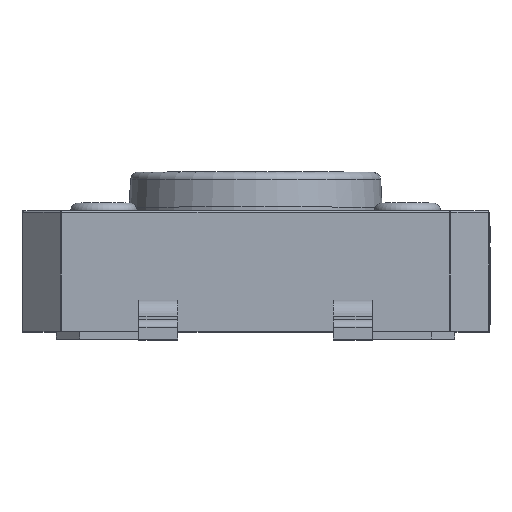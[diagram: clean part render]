
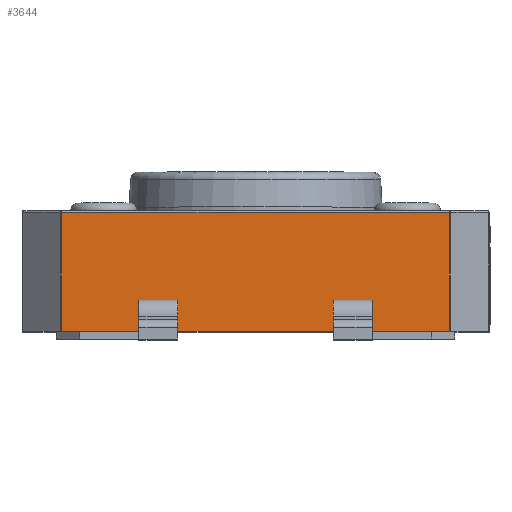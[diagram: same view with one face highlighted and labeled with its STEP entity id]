
A CAD part, top view. The second image highlights one B-rep face of the part: STEP entity #3644.
In plain terms, the highlighted planar face has unit normal (0, 0, 1).
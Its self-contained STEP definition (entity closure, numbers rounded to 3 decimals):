
#403=DIRECTION('',(-1.,0.,0.));
#404=VECTOR('',#403,9.959);
#405=CARTESIAN_POINT('',(4.979,0.2,6.));
#406=LINE('',#405,#404);
#407=DIRECTION('',(0.,-1.,0.));
#408=VECTOR('',#407,3.05);
#409=CARTESIAN_POINT('',(4.979,3.25,6.));
#410=LINE('',#409,#408);
#411=DIRECTION('',(0.,-1.,0.));
#412=VECTOR('',#411,3.05);
#413=CARTESIAN_POINT('',(-4.979,3.25,6.));
#414=LINE('',#413,#412);
#517=DIRECTION('',(-1.,0.,0.));
#518=VECTOR('',#517,9.959);
#519=CARTESIAN_POINT('',(4.979,3.25,6.));
#520=LINE('',#519,#518);
#1213=DIRECTION('',(0.,1.,0.));
#1214=VECTOR('',#1213,0.3);
#1215=CARTESIAN_POINT('',(2.,0.7,6.));
#1216=LINE('',#1215,#1214);
#1221=DIRECTION('',(1.,0.,0.));
#1222=VECTOR('',#1221,1.);
#1223=CARTESIAN_POINT('',(2.,1.,6.));
#1224=LINE('',#1223,#1222);
#1229=DIRECTION('',(0.,-1.,0.));
#1230=VECTOR('',#1229,0.3);
#1231=CARTESIAN_POINT('',(3.,1.,6.));
#1232=LINE('',#1231,#1230);
#1261=DIRECTION('',(-1.,0.,0.));
#1262=VECTOR('',#1261,1.);
#1263=CARTESIAN_POINT('',(3.,0.7,6.));
#1264=LINE('',#1263,#1262);
#1365=DIRECTION('',(0.,1.,0.));
#1366=VECTOR('',#1365,0.3);
#1367=CARTESIAN_POINT('',(-3.,0.7,6.));
#1368=LINE('',#1367,#1366);
#1373=DIRECTION('',(1.,0.,0.));
#1374=VECTOR('',#1373,1.);
#1375=CARTESIAN_POINT('',(-3.,1.,6.));
#1376=LINE('',#1375,#1374);
#1381=DIRECTION('',(0.,-1.,0.));
#1382=VECTOR('',#1381,0.3);
#1383=CARTESIAN_POINT('',(-2.,1.,6.));
#1384=LINE('',#1383,#1382);
#1413=DIRECTION('',(-1.,0.,0.));
#1414=VECTOR('',#1413,1.);
#1415=CARTESIAN_POINT('',(-2.,0.7,6.));
#1416=LINE('',#1415,#1414);
#2451=CARTESIAN_POINT('',(-4.979,0.2,6.));
#2452=VERTEX_POINT('',#2451);
#2453=CARTESIAN_POINT('',(4.979,0.2,6.));
#2455=VERTEX_POINT('',#2453);
#2525=CARTESIAN_POINT('',(4.979,3.25,6.));
#2526=VERTEX_POINT('',#2525);
#2529=CARTESIAN_POINT('',(2.,0.7,6.));
#2530=CARTESIAN_POINT('',(2.,1.,6.));
#2531=VERTEX_POINT('',#2529);
#2532=VERTEX_POINT('',#2530);
#2533=CARTESIAN_POINT('',(3.,1.,6.));
#2534=VERTEX_POINT('',#2533);
#2535=CARTESIAN_POINT('',(-3.,0.7,6.));
#2536=CARTESIAN_POINT('',(-3.,1.,6.));
#2537=VERTEX_POINT('',#2535);
#2538=VERTEX_POINT('',#2536);
#2539=CARTESIAN_POINT('',(-2.,1.,6.));
#2540=VERTEX_POINT('',#2539);
#2543=CARTESIAN_POINT('',(-4.979,3.25,6.));
#2544=VERTEX_POINT('',#2543);
#2759=CARTESIAN_POINT('',(3.,0.7,6.));
#2760=VERTEX_POINT('',#2759);
#2801=CARTESIAN_POINT('',(-2.,0.7,6.));
#2802=VERTEX_POINT('',#2801);
#3611=CARTESIAN_POINT('',(0.,1.725,6.));
#3612=DIRECTION('',(0.,0.,1.));
#3613=DIRECTION('',(1.,0.,0.));
#3614=AXIS2_PLACEMENT_3D('',#3611,#3612,#3613);
#3615=PLANE('',#3614);
#3616=ORIENTED_EDGE('',*,*,#3264,.T.);
#3618=ORIENTED_EDGE('',*,*,#3617,.F.);
#3620=ORIENTED_EDGE('',*,*,#3619,.F.);
#3621=ORIENTED_EDGE('',*,*,#3603,.T.);
#3622=EDGE_LOOP('',(#3616,#3618,#3620,#3621));
#3623=FACE_OUTER_BOUND('',#3622,.F.);
#3625=ORIENTED_EDGE('',*,*,#3624,.F.);
#3627=ORIENTED_EDGE('',*,*,#3626,.F.);
#3629=ORIENTED_EDGE('',*,*,#3628,.F.);
#3631=ORIENTED_EDGE('',*,*,#3630,.F.);
#3632=EDGE_LOOP('',(#3625,#3627,#3629,#3631));
#3633=FACE_BOUND('',#3632,.F.);
#3635=ORIENTED_EDGE('',*,*,#3634,.F.);
#3637=ORIENTED_EDGE('',*,*,#3636,.F.);
#3639=ORIENTED_EDGE('',*,*,#3638,.F.);
#3641=ORIENTED_EDGE('',*,*,#3640,.F.);
#3642=EDGE_LOOP('',(#3635,#3637,#3639,#3641));
#3643=FACE_BOUND('',#3642,.F.);
#3264=EDGE_CURVE('',#2455,#2452,#406,.T.);
#3603=EDGE_CURVE('',#2526,#2455,#410,.T.);
#3617=EDGE_CURVE('',#2544,#2452,#414,.T.);
#3619=EDGE_CURVE('',#2526,#2544,#520,.T.);
#3624=EDGE_CURVE('',#2531,#2532,#1216,.T.);
#3626=EDGE_CURVE('',#2760,#2531,#1264,.T.);
#3628=EDGE_CURVE('',#2534,#2760,#1232,.T.);
#3630=EDGE_CURVE('',#2532,#2534,#1224,.T.);
#3634=EDGE_CURVE('',#2537,#2538,#1368,.T.);
#3636=EDGE_CURVE('',#2802,#2537,#1416,.T.);
#3638=EDGE_CURVE('',#2540,#2802,#1384,.T.);
#3640=EDGE_CURVE('',#2538,#2540,#1376,.T.);
#3644=ADVANCED_FACE('',(#3623,#3633,#3643),#3615,.T.);
